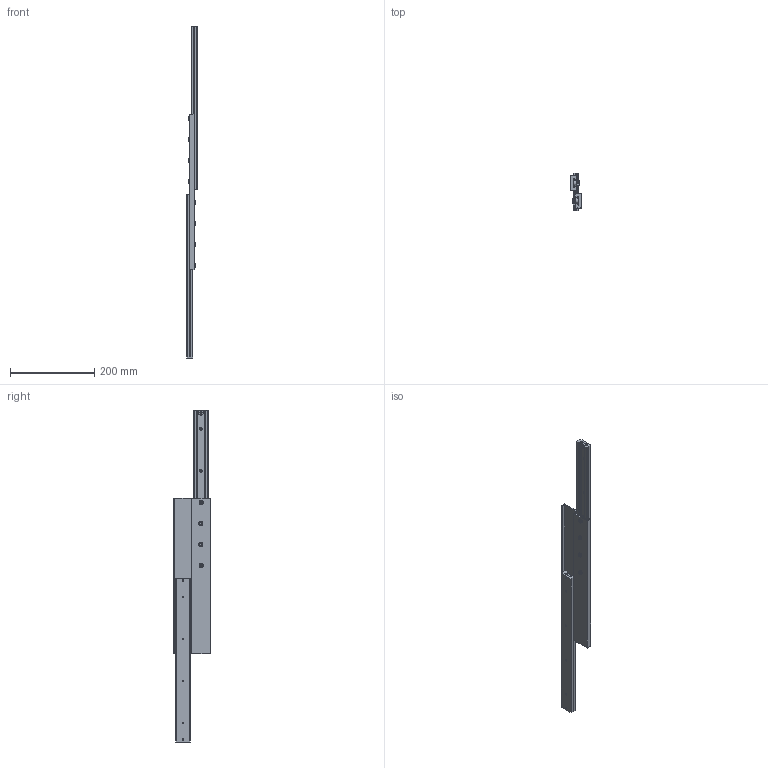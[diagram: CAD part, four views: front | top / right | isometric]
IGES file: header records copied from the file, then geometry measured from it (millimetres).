
Start section: SolidWorks IGES file using analytic representation for surfaces
Global section: file name: C:\Users\tsuch\OneDrive\デスクトップ\LSIMモジュール化図面\LSIM-DV(3D)\iges形式\LSIM35DVL.IGS; native system: SolidWorks 2019; preprocessor: SolidWorks 2019; author: tsuch; date: 210614.084236; units: millimetre
Bounding box: 24 x 87.8 x 790 mm (x, y, z)
Surface area: 191748 mm2 (no closed solid volume)
Topology: 0 solids, 0 shells, 554 faces, 8188 edges, 8188 vertices
Faces by surface type: revolution 314, bspline 240
